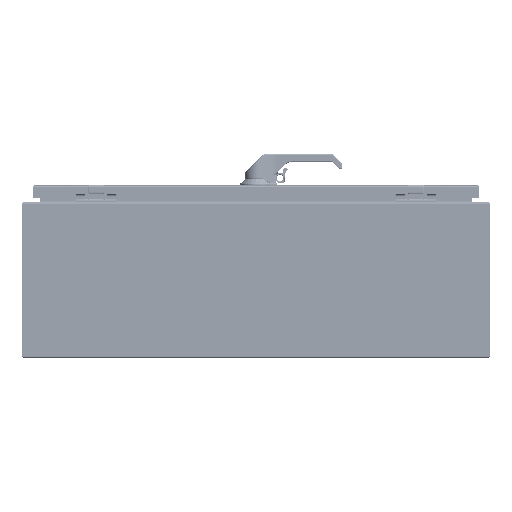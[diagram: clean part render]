
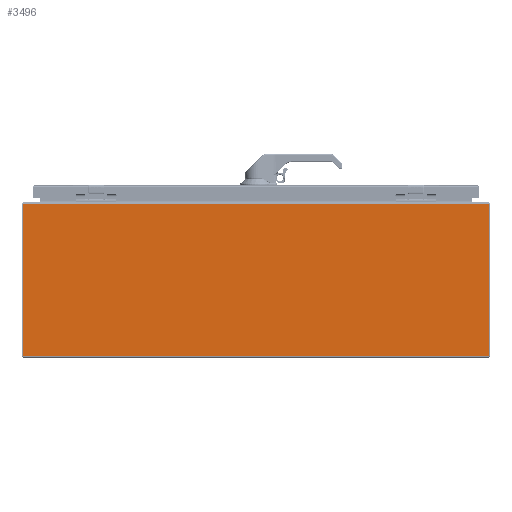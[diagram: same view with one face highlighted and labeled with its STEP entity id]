
A CAD part, left-side view. The second image highlights one B-rep face of the part: STEP entity #3496.
In plain terms, the highlighted planar face has unit normal (-1, 0, 0).
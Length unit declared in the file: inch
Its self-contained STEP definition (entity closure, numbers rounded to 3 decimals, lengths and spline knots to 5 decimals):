
#769=DIRECTION('',(0.,1.,0.));
#770=VECTOR('',#769,29.85);
#771=CARTESIAN_POINT('',(-21.,-14.925,-4.883));
#772=LINE('',#771,#770);
#938=DIRECTION('',(0.,0.,-1.));
#939=VECTOR('',#938,9.766);
#940=CARTESIAN_POINT('',(-21.,-14.925,4.883));
#941=LINE('',#940,#939);
#959=DIRECTION('',(0.,0.,-1.));
#960=VECTOR('',#959,9.766);
#961=CARTESIAN_POINT('',(-21.,14.925,4.883));
#962=LINE('',#961,#960);
#987=DIRECTION('',(0.,1.,0.));
#988=VECTOR('',#987,29.85);
#989=CARTESIAN_POINT('',(-21.,-14.925,4.883));
#990=LINE('',#989,#988);
#2302=CARTESIAN_POINT('',(-21.,-14.925,4.883));
#2303=CARTESIAN_POINT('',(-21.,-14.925,-4.883));
#2304=VERTEX_POINT('',#2302);
#2305=VERTEX_POINT('',#2303);
#2314=CARTESIAN_POINT('',(-21.,14.925,4.883));
#2315=CARTESIAN_POINT('',(-21.,14.925,-4.883));
#2316=VERTEX_POINT('',#2314);
#2317=VERTEX_POINT('',#2315);
#3483=CARTESIAN_POINT('',(-21.,-14.925,5.));
#3484=DIRECTION('',(-1.,0.,0.));
#3485=DIRECTION('',(0.,0.,-1.));
#3486=AXIS2_PLACEMENT_3D('',#3483,#3484,#3485);
#3487=PLANE('',#3486);
#3488=ORIENTED_EDGE('',*,*,#3474,.T.);
#3489=ORIENTED_EDGE('',*,*,#3357,.T.);
#3491=ORIENTED_EDGE('',*,*,#3490,.F.);
#3493=ORIENTED_EDGE('',*,*,#3492,.F.);
#3494=EDGE_LOOP('',(#3488,#3489,#3491,#3493));
#3495=FACE_OUTER_BOUND('',#3494,.F.);
#3357=EDGE_CURVE('',#2305,#2317,#772,.T.);
#3474=EDGE_CURVE('',#2304,#2305,#941,.T.);
#3490=EDGE_CURVE('',#2316,#2317,#962,.T.);
#3492=EDGE_CURVE('',#2304,#2316,#990,.T.);
#3496=ADVANCED_FACE('',(#3495),#3487,.T.);
